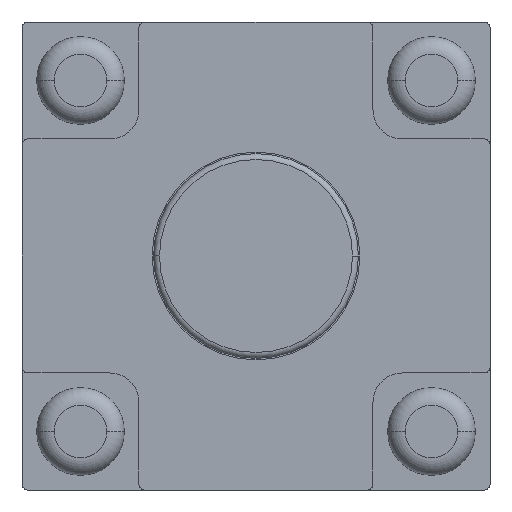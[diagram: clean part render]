
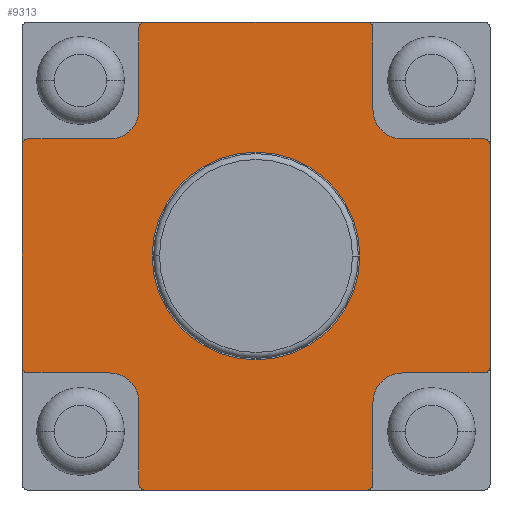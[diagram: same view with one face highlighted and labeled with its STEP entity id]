
A CAD part, front view. The second image highlights one B-rep face of the part: STEP entity #9313.
In plain terms, the highlighted planar face has unit normal (0, -1, 0).
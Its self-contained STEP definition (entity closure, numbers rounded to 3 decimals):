
#7896=CARTESIAN_POINT('',(0.,-2.,0.));
#7897=DIRECTION('',(0.,-1.,0.));
#7898=DIRECTION('',(-1.,0.,0.));
#7899=AXIS2_PLACEMENT_3D('',#7896,#7897,#7898);
#7904=CARTESIAN_POINT('',(0.,-2.,0.));
#7905=DIRECTION('',(0.,-1.,0.));
#7906=DIRECTION('',(1.,0.,0.));
#7907=AXIS2_PLACEMENT_3D('',#7904,#7905,#7906);
#7912=CARTESIAN_POINT('',(3.9,-2.,1.9));
#7913=DIRECTION('',(0.,-1.,0.));
#7914=DIRECTION('',(1.,0.,0.));
#7915=AXIS2_PLACEMENT_3D('',#7912,#7913,#7914);
#7920=DIRECTION('',(0.,0.,-1.));
#7921=VECTOR('',#7920,3.8);
#7922=CARTESIAN_POINT('',(4.,-2.,1.9));
#7923=LINE('',#7922,#7921);
#7927=CARTESIAN_POINT('',(3.9,-2.,-1.9));
#7928=DIRECTION('',(0.,-1.,0.));
#7929=DIRECTION('',(0.,0.,-1.));
#7930=AXIS2_PLACEMENT_3D('',#7927,#7928,#7929);
#7935=DIRECTION('',(-1.,0.,0.));
#7936=VECTOR('',#7935,1.4);
#7937=CARTESIAN_POINT('',(3.9,-2.,-2.));
#7938=LINE('',#7937,#7936);
#7942=DIRECTION('',(0.,0.,1.));
#7943=VECTOR('',#7942,1.4);
#7944=CARTESIAN_POINT('',(2.,-2.,-3.9));
#7945=LINE('',#7944,#7943);
#7949=CARTESIAN_POINT('',(1.9,-2.,-3.9));
#7950=DIRECTION('',(0.,-1.,0.));
#7951=DIRECTION('',(0.,0.,-1.));
#7952=AXIS2_PLACEMENT_3D('',#7949,#7950,#7951);
#7957=DIRECTION('',(-1.,0.,0.));
#7958=VECTOR('',#7957,3.8);
#7959=CARTESIAN_POINT('',(1.9,-2.,-4.));
#7960=LINE('',#7959,#7958);
#7964=CARTESIAN_POINT('',(-1.9,-2.,-3.9));
#7965=DIRECTION('',(0.,-1.,0.));
#7966=DIRECTION('',(-1.,0.,0.));
#7967=AXIS2_PLACEMENT_3D('',#7964,#7965,#7966);
#7972=DIRECTION('',(0.,0.,1.));
#7973=VECTOR('',#7972,1.4);
#7974=CARTESIAN_POINT('',(-2.,-2.,-3.9));
#7975=LINE('',#7974,#7973);
#7979=DIRECTION('',(1.,0.,0.));
#7980=VECTOR('',#7979,1.4);
#7981=CARTESIAN_POINT('',(-3.9,-2.,-2.));
#7982=LINE('',#7981,#7980);
#7986=CARTESIAN_POINT('',(-3.9,-2.,-1.9));
#7987=DIRECTION('',(0.,-1.,0.));
#7988=DIRECTION('',(-1.,0.,0.));
#7989=AXIS2_PLACEMENT_3D('',#7986,#7987,#7988);
#7994=DIRECTION('',(0.,0.,1.));
#7995=VECTOR('',#7994,3.8);
#7996=CARTESIAN_POINT('',(-4.,-2.,-1.9));
#7997=LINE('',#7996,#7995);
#8001=CARTESIAN_POINT('',(-3.9,-2.,1.9));
#8002=DIRECTION('',(0.,-1.,0.));
#8003=DIRECTION('',(0.,0.,1.));
#8004=AXIS2_PLACEMENT_3D('',#8001,#8002,#8003);
#8009=DIRECTION('',(1.,0.,0.));
#8010=VECTOR('',#8009,1.4);
#8011=CARTESIAN_POINT('',(-3.9,-2.,2.));
#8012=LINE('',#8011,#8010);
#8016=DIRECTION('',(0.,0.,-1.));
#8017=VECTOR('',#8016,1.4);
#8018=CARTESIAN_POINT('',(-2.,-2.,3.9));
#8019=LINE('',#8018,#8017);
#8023=CARTESIAN_POINT('',(-1.9,-2.,3.9));
#8024=DIRECTION('',(0.,-1.,0.));
#8025=DIRECTION('',(0.,0.,1.));
#8026=AXIS2_PLACEMENT_3D('',#8023,#8024,#8025);
#8031=DIRECTION('',(1.,0.,0.));
#8032=VECTOR('',#8031,3.8);
#8033=CARTESIAN_POINT('',(-1.9,-2.,4.));
#8034=LINE('',#8033,#8032);
#8038=CARTESIAN_POINT('',(1.9,-2.,3.9));
#8039=DIRECTION('',(0.,-1.,0.));
#8040=DIRECTION('',(1.,0.,0.));
#8041=AXIS2_PLACEMENT_3D('',#8038,#8039,#8040);
#8046=DIRECTION('',(0.,0.,-1.));
#8047=VECTOR('',#8046,1.4);
#8048=CARTESIAN_POINT('',(2.,-2.,3.9));
#8049=LINE('',#8048,#8047);
#8053=DIRECTION('',(-1.,0.,0.));
#8054=VECTOR('',#8053,1.4);
#8055=CARTESIAN_POINT('',(3.9,-2.,2.));
#8056=LINE('',#8055,#8054);
#8082=CARTESIAN_POINT('',(2.5,-2.,2.5));
#8083=DIRECTION('',(0.,1.,0.));
#8084=DIRECTION('',(0.,0.,-1.));
#8085=AXIS2_PLACEMENT_3D('',#8082,#8083,#8084);
#8458=CARTESIAN_POINT('',(-2.5,-2.,2.5));
#8459=DIRECTION('',(0.,1.,0.));
#8460=DIRECTION('',(1.,0.,0.));
#8461=AXIS2_PLACEMENT_3D('',#8458,#8459,#8460);
#8538=CARTESIAN_POINT('',(-2.5,-2.,-2.5));
#8539=DIRECTION('',(0.,1.,0.));
#8540=DIRECTION('',(0.,0.,1.));
#8541=AXIS2_PLACEMENT_3D('',#8538,#8539,#8540);
#8618=CARTESIAN_POINT('',(2.5,-2.,-2.5));
#8619=DIRECTION('',(0.,1.,0.));
#8620=DIRECTION('',(-1.,0.,0.));
#8621=AXIS2_PLACEMENT_3D('',#8618,#8619,#8620);
#8904=CARTESIAN_POINT('',(-1.775,-2.,0.));
#8905=CARTESIAN_POINT('',(1.775,-2.,0.));
#8906=VERTEX_POINT('',#8904);
#8907=VERTEX_POINT('',#8905);
#8912=CARTESIAN_POINT('',(2.,-2.,-2.5));
#8913=VERTEX_POINT('',#8912);
#8914=CARTESIAN_POINT('',(2.5,-2.,-2.));
#8915=VERTEX_POINT('',#8914);
#8920=CARTESIAN_POINT('',(-2.5,-2.,-2.));
#8921=VERTEX_POINT('',#8920);
#8922=CARTESIAN_POINT('',(-2.,-2.,-2.5));
#8923=VERTEX_POINT('',#8922);
#8928=CARTESIAN_POINT('',(-2.,-2.,2.5));
#8929=VERTEX_POINT('',#8928);
#8930=CARTESIAN_POINT('',(-2.5,-2.,2.));
#8931=VERTEX_POINT('',#8930);
#8936=CARTESIAN_POINT('',(2.5,-2.,2.));
#8937=VERTEX_POINT('',#8936);
#8938=CARTESIAN_POINT('',(2.,-2.,2.5));
#8939=VERTEX_POINT('',#8938);
#9068=CARTESIAN_POINT('',(4.,-2.,1.9));
#9069=CARTESIAN_POINT('',(3.9,-2.,2.));
#9070=VERTEX_POINT('',#9068);
#9071=VERTEX_POINT('',#9069);
#9076=CARTESIAN_POINT('',(3.9,-2.,-2.));
#9078=VERTEX_POINT('',#9076);
#9080=CARTESIAN_POINT('',(4.,-2.,-1.9));
#9081=VERTEX_POINT('',#9080);
#9084=CARTESIAN_POINT('',(1.9,-2.,-4.));
#9085=CARTESIAN_POINT('',(2.,-2.,-3.9));
#9086=VERTEX_POINT('',#9084);
#9087=VERTEX_POINT('',#9085);
#9092=CARTESIAN_POINT('',(-2.,-2.,-3.9));
#9094=VERTEX_POINT('',#9092);
#9096=CARTESIAN_POINT('',(-1.9,-2.,-4.));
#9097=VERTEX_POINT('',#9096);
#9100=CARTESIAN_POINT('',(-4.,-2.,-1.9));
#9101=CARTESIAN_POINT('',(-3.9,-2.,-2.));
#9102=VERTEX_POINT('',#9100);
#9103=VERTEX_POINT('',#9101);
#9108=CARTESIAN_POINT('',(-3.9,-2.,2.));
#9110=VERTEX_POINT('',#9108);
#9112=CARTESIAN_POINT('',(-4.,-2.,1.9));
#9113=VERTEX_POINT('',#9112);
#9116=CARTESIAN_POINT('',(-1.9,-2.,4.));
#9117=CARTESIAN_POINT('',(-2.,-2.,3.9));
#9118=VERTEX_POINT('',#9116);
#9119=VERTEX_POINT('',#9117);
#9124=CARTESIAN_POINT('',(2.,-2.,3.9));
#9126=VERTEX_POINT('',#9124);
#9128=CARTESIAN_POINT('',(1.9,-2.,4.));
#9129=VERTEX_POINT('',#9128);
#9254=CARTESIAN_POINT('',(0.,-2.,0.));
#9255=DIRECTION('',(0.,1.,0.));
#9256=DIRECTION('',(-1.,0.,0.));
#9257=AXIS2_PLACEMENT_3D('',#9254,#9255,#9256);
#9258=PLANE('',#9257);
#9260=ORIENTED_EDGE('',*,*,#9259,.F.);
#9262=ORIENTED_EDGE('',*,*,#9261,.T.);
#9264=ORIENTED_EDGE('',*,*,#9263,.F.);
#9266=ORIENTED_EDGE('',*,*,#9265,.T.);
#9268=ORIENTED_EDGE('',*,*,#9267,.F.);
#9270=ORIENTED_EDGE('',*,*,#9269,.F.);
#9272=ORIENTED_EDGE('',*,*,#9271,.F.);
#9274=ORIENTED_EDGE('',*,*,#9273,.T.);
#9276=ORIENTED_EDGE('',*,*,#9275,.F.);
#9278=ORIENTED_EDGE('',*,*,#9277,.T.);
#9280=ORIENTED_EDGE('',*,*,#9279,.F.);
#9282=ORIENTED_EDGE('',*,*,#9281,.F.);
#9284=ORIENTED_EDGE('',*,*,#9283,.F.);
#9286=ORIENTED_EDGE('',*,*,#9285,.T.);
#9288=ORIENTED_EDGE('',*,*,#9287,.F.);
#9290=ORIENTED_EDGE('',*,*,#9289,.T.);
#9292=ORIENTED_EDGE('',*,*,#9291,.F.);
#9294=ORIENTED_EDGE('',*,*,#9293,.F.);
#9296=ORIENTED_EDGE('',*,*,#9295,.F.);
#9298=ORIENTED_EDGE('',*,*,#9297,.T.);
#9300=ORIENTED_EDGE('',*,*,#9299,.F.);
#9302=ORIENTED_EDGE('',*,*,#9301,.T.);
#9304=ORIENTED_EDGE('',*,*,#9303,.F.);
#9306=ORIENTED_EDGE('',*,*,#9305,.F.);
#9307=EDGE_LOOP('',(#9260,#9262,#9264,#9266,#9268,#9270,#9272,#9274,#9276,#9278,
#9280,#9282,#9284,#9286,#9288,#9290,#9292,#9294,#9296,#9298,#9300,#9302,#9304,
#9306));
#9308=FACE_OUTER_BOUND('',#9307,.F.);
#9309=ORIENTED_EDGE('',*,*,#9234,.T.);
#9310=ORIENTED_EDGE('',*,*,#9248,.T.);
#9311=EDGE_LOOP('',(#9309,#9310));
#9312=FACE_BOUND('',#9311,.F.);
#7900=CIRCLE('',#7899,1.775);
#7908=CIRCLE('',#7907,1.775);
#7916=CIRCLE('',#7915,0.1);
#7931=CIRCLE('',#7930,0.1);
#7953=CIRCLE('',#7952,0.1);
#7968=CIRCLE('',#7967,0.1);
#7990=CIRCLE('',#7989,0.1);
#8005=CIRCLE('',#8004,0.1);
#8027=CIRCLE('',#8026,0.1);
#8042=CIRCLE('',#8041,0.1);
#8086=CIRCLE('',#8085,0.5);
#8462=CIRCLE('',#8461,0.5);
#8542=CIRCLE('',#8541,0.5);
#8622=CIRCLE('',#8621,0.5);
#9234=EDGE_CURVE('',#8906,#8907,#7900,.T.);
#9248=EDGE_CURVE('',#8907,#8906,#7908,.T.);
#9259=EDGE_CURVE('',#9070,#9071,#7916,.T.);
#9261=EDGE_CURVE('',#9070,#9081,#7923,.T.);
#9263=EDGE_CURVE('',#9078,#9081,#7931,.T.);
#9265=EDGE_CURVE('',#9078,#8915,#7938,.T.);
#9267=EDGE_CURVE('',#8913,#8915,#8622,.T.);
#9269=EDGE_CURVE('',#9087,#8913,#7945,.T.);
#9271=EDGE_CURVE('',#9086,#9087,#7953,.T.);
#9273=EDGE_CURVE('',#9086,#9097,#7960,.T.);
#9275=EDGE_CURVE('',#9094,#9097,#7968,.T.);
#9277=EDGE_CURVE('',#9094,#8923,#7975,.T.);
#9279=EDGE_CURVE('',#8921,#8923,#8542,.T.);
#9281=EDGE_CURVE('',#9103,#8921,#7982,.T.);
#9283=EDGE_CURVE('',#9102,#9103,#7990,.T.);
#9285=EDGE_CURVE('',#9102,#9113,#7997,.T.);
#9287=EDGE_CURVE('',#9110,#9113,#8005,.T.);
#9289=EDGE_CURVE('',#9110,#8931,#8012,.T.);
#9291=EDGE_CURVE('',#8929,#8931,#8462,.T.);
#9293=EDGE_CURVE('',#9119,#8929,#8019,.T.);
#9295=EDGE_CURVE('',#9118,#9119,#8027,.T.);
#9297=EDGE_CURVE('',#9118,#9129,#8034,.T.);
#9299=EDGE_CURVE('',#9126,#9129,#8042,.T.);
#9301=EDGE_CURVE('',#9126,#8939,#8049,.T.);
#9303=EDGE_CURVE('',#8937,#8939,#8086,.T.);
#9305=EDGE_CURVE('',#9071,#8937,#8056,.T.);
#9313=ADVANCED_FACE('',(#9308,#9312),#9258,.F.);
